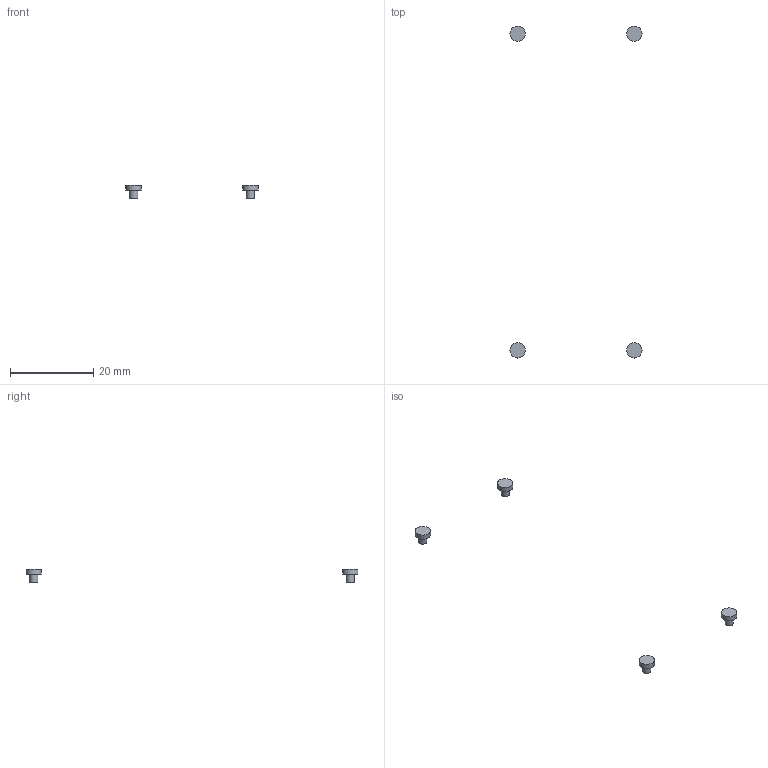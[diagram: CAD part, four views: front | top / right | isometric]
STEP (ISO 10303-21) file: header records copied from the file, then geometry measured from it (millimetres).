
FILE_DESCRIPTION(('Open CASCADE Model'),'2;1');
FILE_NAME('Open CASCADE Shape Model','2026-09-09T12:58:10',('Author'),( 'Open CASCADE'),'Open CASCADE STEP processor 7.9','Open CASCADE 7.9' ,'Unknown');
FILE_SCHEMA(('AUTOMOTIVE_DESIGN { 1 0 10303 214 1 1 1 1 }'));
Length unit declared in the file: millimetre
Products named in the file (5): Open CASCADE STEP translator 7.9 42; Open CASCADE STEP translator 7.9 42.1; Open CASCADE STEP translator 7.9 42.2; Open CASCADE STEP translator 7.9 42.3; Open CASCADE STEP translator 7.9 42.4
Assembly tree (4 placements, depth 2):
  Open CASCADE STEP translator 7.9 42
    Open CASCADE STEP translator 7.9 42.1
    Open CASCADE STEP translator 7.9 42.2
    Open CASCADE STEP translator 7.9 42.3
    Open CASCADE STEP translator 7.9 42.4
Bounding box: 31.7 x 79.7 x 3.25 mm (x, y, z)
Volume: 77.4 mm3; surface area: 193.3 mm2
Topology: 4 solids, 4 shells, 20 faces, 24 edges, 16 vertices
Faces by surface type: plane 12, cylinder 8
Full cylindrical faces by diameter (mm): 2 x4, 3.7 x4
Entity records: 804 total; most frequent: CARTESIAN_POINT 137, DIRECTION 134, ORIENTED_EDGE 48, PCURVE 48, DEFINITIONAL_REPRESENTATION 48, AXIS2_PLACEMENT_3D 41, LINE 40, VECTOR 40
